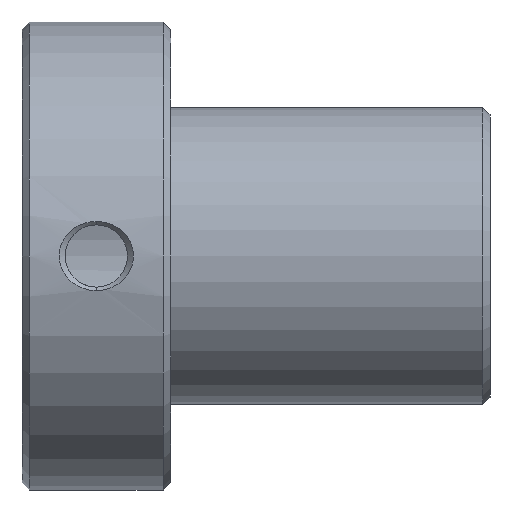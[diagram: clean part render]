
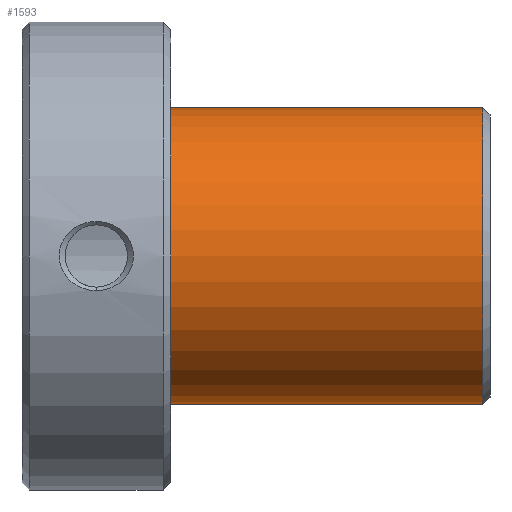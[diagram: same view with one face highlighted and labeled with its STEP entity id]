
A CAD part, front view. The second image highlights one B-rep face of the part: STEP entity #1593.
In plain terms, the highlighted cylindrical face has radius 20 mm (diameter 40 mm), a partial arc.
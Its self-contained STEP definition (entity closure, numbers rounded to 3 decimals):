
#813=CARTESIAN_POINT('Vertex',(20.,0.,-20.)) ;
#818=CARTESIAN_POINT('Axis2P3D Location',(20.,0.,0.)) ;
#822=CARTESIAN_POINT('Vertex',(20.,-20.,0.)) ;
#825=CARTESIAN_POINT('Axis2P3D Location',(20.,0.,0.)) ;
#829=CARTESIAN_POINT('Vertex',(20.,0.,20.)) ;
#1533=CARTESIAN_POINT('Line Origine',(63.,0.,20.)) ;
#1537=CARTESIAN_POINT('Vertex',(62.,0.,20.)) ;
#1551=CARTESIAN_POINT('Vertex',(62.,0.,-20.)) ;
#1554=CARTESIAN_POINT('Line Origine',(63.,0.,-20.)) ;
#1568=CARTESIAN_POINT('Axis2P3D Location',(63.,0.,0.)) ;
#1573=CARTESIAN_POINT('Axis2P3D Location',(62.,0.,0.)) ;
#1577=CARTESIAN_POINT('Vertex',(62.,-20.,0.)) ;
#1580=CARTESIAN_POINT('Axis2P3D Location',(62.,0.,0.)) ;
#819=DIRECTION('Axis2P3D Direction',(1.,0.,-0.)) ;
#826=DIRECTION('Axis2P3D Direction',(1.,0.,-0.)) ;
#1534=DIRECTION('Vector Direction',(-1.,0.,0.)) ;
#1555=DIRECTION('Vector Direction',(-1.,0.,0.)) ;
#1569=DIRECTION('Axis2P3D Direction',(-1.,-0.,-0.)) ;
#1570=DIRECTION('Axis2P3D XDirection',(0.,0.,-1.)) ;
#1574=DIRECTION('Axis2P3D Direction',(-1.,-0.,-0.)) ;
#1581=DIRECTION('Axis2P3D Direction',(-1.,-0.,-0.)) ;
#820=AXIS2_PLACEMENT_3D('Circle Axis2P3D',#818,#819,$) ;
#827=AXIS2_PLACEMENT_3D('Circle Axis2P3D',#825,#826,$) ;
#1571=AXIS2_PLACEMENT_3D('Cylinder Axis2P3D',#1568,#1569,#1570) ;
#1575=AXIS2_PLACEMENT_3D('Circle Axis2P3D',#1573,#1574,$) ;
#1582=AXIS2_PLACEMENT_3D('Circle Axis2P3D',#1580,#1581,$) ;
#1586=ORIENTED_EDGE('',*,*,#1558,.T.) ;
#1587=ORIENTED_EDGE('',*,*,#1579,.F.) ;
#1588=ORIENTED_EDGE('',*,*,#1584,.F.) ;
#1589=ORIENTED_EDGE('',*,*,#1539,.T.) ;
#1590=ORIENTED_EDGE('',*,*,#831,.T.) ;
#1591=ORIENTED_EDGE('',*,*,#824,.T.) ;
#1535=VECTOR('Line Direction',#1534,1.) ;
#1556=VECTOR('Line Direction',#1555,1.) ;
#1593=ADVANCED_FACE('345-25',(#1592),#1572,.T.) ;
#821=CIRCLE('generated circle',#820,20.) ;
#828=CIRCLE('generated circle',#827,20.) ;
#1576=CIRCLE('generated circle',#1575,20.) ;
#1583=CIRCLE('generated circle',#1582,20.) ;
#1572=CYLINDRICAL_SURFACE('generated cylinder',#1571,20.) ;
#824=EDGE_CURVE('',#823,#814,#821,.T.) ;
#831=EDGE_CURVE('',#830,#823,#828,.T.) ;
#1539=EDGE_CURVE('',#1538,#830,#1536,.T.) ;
#1558=EDGE_CURVE('',#814,#1552,#1557,.F.) ;
#1579=EDGE_CURVE('',#1578,#1552,#1576,.F.) ;
#1584=EDGE_CURVE('',#1538,#1578,#1583,.F.) ;
#1585=EDGE_LOOP('',(#1586,#1587,#1588,#1589,#1590,#1591)) ;
#1592=FACE_OUTER_BOUND('',#1585,.T.) ;
#1536=LINE('Line',#1533,#1535) ;
#1557=LINE('Line',#1554,#1556) ;
#814=VERTEX_POINT('',#813) ;
#823=VERTEX_POINT('',#822) ;
#830=VERTEX_POINT('',#829) ;
#1538=VERTEX_POINT('',#1537) ;
#1552=VERTEX_POINT('',#1551) ;
#1578=VERTEX_POINT('',#1577) ;
